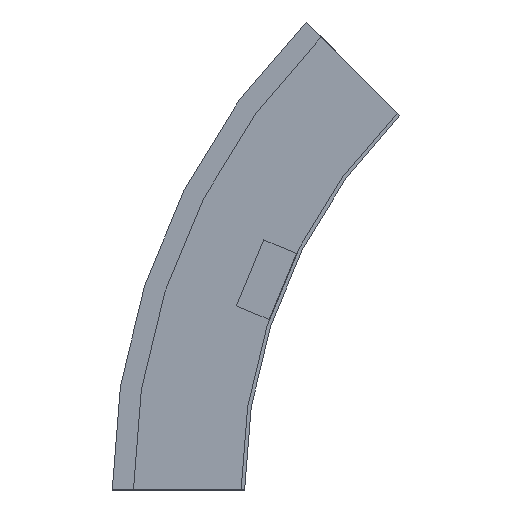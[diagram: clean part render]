
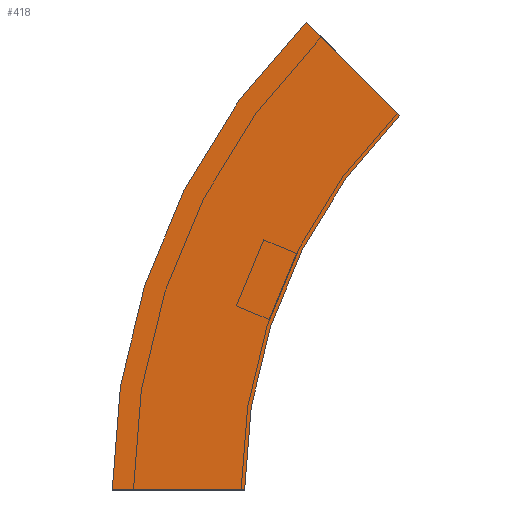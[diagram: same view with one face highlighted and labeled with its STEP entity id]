
A CAD part, left-side view. The second image highlights one B-rep face of the part: STEP entity #418.
In plain terms, the highlighted planar face has unit normal (-1, 0, 0) as drawn and (1, 0, 0) by its records, which use the part's own axes.
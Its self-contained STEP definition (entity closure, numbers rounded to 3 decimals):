
#12 = CARTESIAN_POINT ( 'NONE',  ( 0., -300., 0. ) ) ;
#15 = DIRECTION ( 'NONE',  ( 0., 1., 0. ) ) ;
#37 = PLANE ( 'NONE',  #118 ) ;
#51 = DIRECTION ( 'NONE',  ( 0., 1., 0. ) ) ;
#56 = LINE ( 'NONE', #98, #430 ) ;
#83 = FACE_OUTER_BOUND ( 'NONE', #170, .T. ) ;
#89 = CARTESIAN_POINT ( 'NONE',  ( 0., -34.835, 265.165 ) ) ;
#94 = DIRECTION ( 'NONE',  ( 0., 1., 0. ) ) ;
#98 = CARTESIAN_POINT ( 'NONE',  ( 0., 0., 0. ) ) ;
#118 = AXIS2_PLACEMENT_3D ( 'NONE', #171, #212, #510 ) ;
#143 = ORIENTED_EDGE ( 'NONE', *, *, #481, .F. ) ;
#170 = EDGE_LOOP ( 'NONE', ( #258, #143, #494, #304 ) ) ;
#171 = CARTESIAN_POINT ( 'NONE',  ( 0., 0., 0. ) ) ;
#205 = CIRCLE ( 'NONE', #369, 300. ) ;
#212 = DIRECTION ( 'NONE',  ( 1., 0., 0. ) ) ;
#217 = VERTEX_POINT ( 'NONE', #295 ) ;
#223 = DIRECTION ( 'NONE',  ( 1., 0., 0. ) ) ;
#258 = ORIENTED_EDGE ( 'NONE', *, *, #516, .T. ) ;
#264 = VECTOR ( 'NONE', #266, 1000. ) ;
#266 = DIRECTION ( 'NONE',  ( 0., 0.707, 0.707 ) ) ;
#268 = LINE ( 'NONE', #311, #264 ) ;
#290 = CARTESIAN_POINT ( 'NONE',  ( 0., -87.868, 212.132 ) ) ;
#295 = CARTESIAN_POINT ( 'NONE',  ( 0., 0., 0. ) ) ;
#300 = EDGE_CURVE ( 'NONE', #217, #407, #205, .T. ) ;
#304 = ORIENTED_EDGE ( 'NONE', *, *, #459, .T. ) ;
#311 = CARTESIAN_POINT ( 'NONE',  ( 0., -87.868, 212.132 ) ) ;
#361 = VERTEX_POINT ( 'NONE', #366 ) ;
#366 = CARTESIAN_POINT ( 'NONE',  ( 0., 75., 0. ) ) ;
#369 = AXIS2_PLACEMENT_3D ( 'NONE', #520, #223, #15 ) ;
#372 = VERTEX_POINT ( 'NONE', #89 ) ;
#389 = CIRCLE ( 'NONE', #531, 375. ) ;
#407 = VERTEX_POINT ( 'NONE', #290 ) ;
#418 = ADVANCED_FACE ( 'NONE', ( #83 ), #37, .T. ) ;
#430 = VECTOR ( 'NONE', #51, 1000. ) ;
#459 = EDGE_CURVE ( 'NONE', #217, #361, #56, .T. ) ;
#481 = EDGE_CURVE ( 'NONE', #407, #372, #268, .T. ) ;
#483 = DIRECTION ( 'NONE',  ( 1., 0., 0. ) ) ;
#494 = ORIENTED_EDGE ( 'NONE', *, *, #300, .F. ) ;
#510 = DIRECTION ( 'NONE',  ( 0., 0., -1. ) ) ;
#516 = EDGE_CURVE ( 'NONE', #361, #372, #389, .T. ) ;
#520 = CARTESIAN_POINT ( 'NONE',  ( 0., -300., 0. ) ) ;
#531 = AXIS2_PLACEMENT_3D ( 'NONE', #12, #483, #94 ) ;
